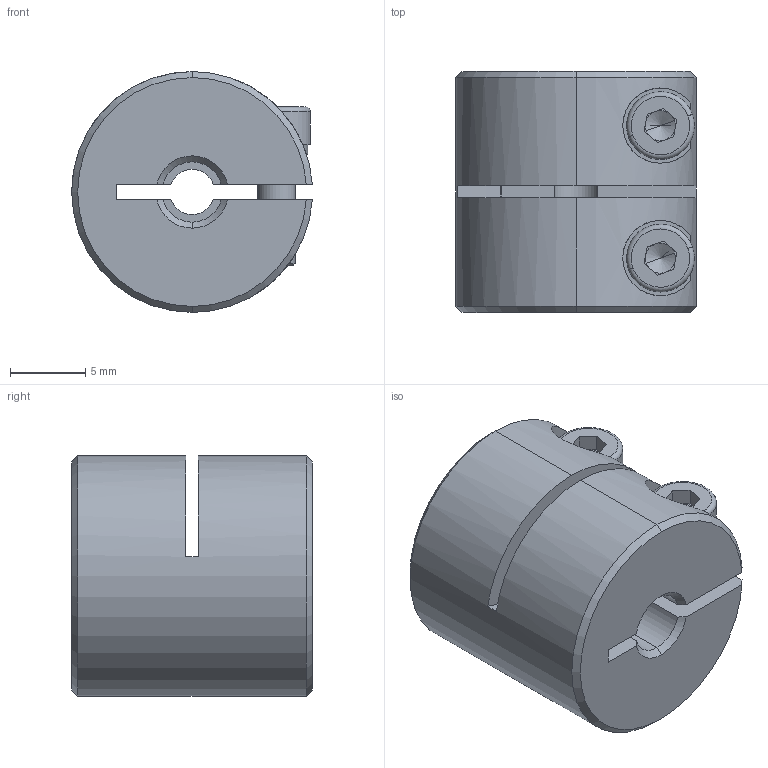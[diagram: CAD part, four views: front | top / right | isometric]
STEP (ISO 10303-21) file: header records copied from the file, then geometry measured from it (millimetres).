
FILE_DESCRIPTION (( 'STEP AP203' ), '1' );
FILE_NAME ('LL-B-D16L16-3-4.STEP', '2021-11-03T02:29:13', ( '' ), ( '' ), 'SwSTEP 2.0', 'SolidWorks 2018', '' );
FILE_SCHEMA (( 'CONFIG_CONTROL_DESIGN' ));
Length unit declared in the file: millimetre
Products named in the file (1): LL-B-D16L16-3-4
Bounding box: 15.98 x 16 x 16 mm (x, y, z)
Volume: 2798.6 mm3; surface area: 2018.9 mm2
Topology: 1 solids, 1 shells, 121 faces, 313 edges, 196 vertices
Faces by surface type: plane 52, cylinder 45, cone 20, torus 4
Entity records: 3956 total; most frequent: CARTESIAN_POINT 887, DIRECTION 653, ORIENTED_EDGE 618, EDGE_CURVE 309, AXIS2_PLACEMENT_3D 254, VERTEX_POINT 196, VECTOR 145, LINE 145
